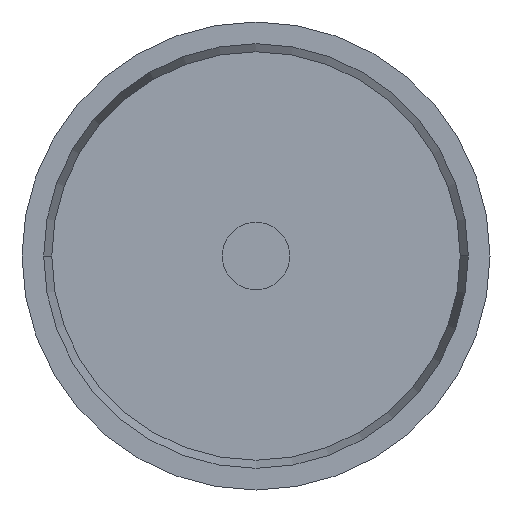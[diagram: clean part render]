
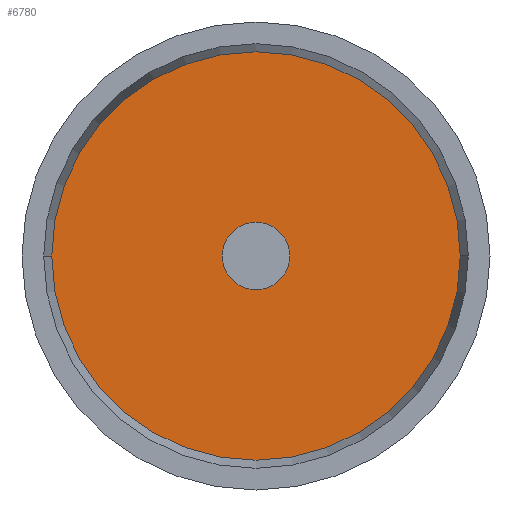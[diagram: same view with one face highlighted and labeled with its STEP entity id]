
A CAD part, left-side view. The second image highlights one B-rep face of the part: STEP entity #6780.
In plain terms, the highlighted planar face has unit normal (-1, 0, 0).
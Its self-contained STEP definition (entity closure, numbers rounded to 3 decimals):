
#5390=CARTESIAN_POINT('',(0.,-3.454,0.));
#5400=VERTEX_POINT('',#5390);
#5430=CARTESIAN_POINT('',(0.,0.,0.)
);
#5440=DIRECTION('',(1.,-0.,-0.));
#5450=DIRECTION('',(0.,1.,0.));
#5460=AXIS2_PLACEMENT_3D('',#5430,#5440,#5450);
#5470=CIRCLE('',#5460,3.454);
#5480=CARTESIAN_POINT('',(0.,0.,
3.454));
#5490=VERTEX_POINT('',#5480);
#5500=EDGE_CURVE('',#5490,#5400,#5470,.T.);
#5520=CARTESIAN_POINT('',(0.,3.454,0.));
#5530=VERTEX_POINT('',#5520);
#5540=EDGE_CURVE('',#5530,#5490,#5470,.T.);
#6480=CARTESIAN_POINT('',(0.,-3.496,3.496));
#6490=DIRECTION('',(1.,0.,0.));
#6500=DIRECTION('',(0.,-1.,0.));
#6510=AXIS2_PLACEMENT_3D('',#6480,#6490,#6500);
#6520=PLANE('',#6510);
#6530=ORIENTED_EDGE('',*,*,#5500,.F.);
#6540=EDGE_CURVE('',#5400,#5530,#5470,.T.);
#6550=ORIENTED_EDGE('',*,*,#6540,.F.);
#6560=ORIENTED_EDGE('',*,*,#5540,.F.);
#6570=EDGE_LOOP('',(#6560,#6550,#6530));
#6580=FACE_OUTER_BOUND('',#6570,.T.);
#6590=CARTESIAN_POINT('',(0.,0.,0.
));
#6600=DIRECTION('',(1.,-0.,-0.));
#6610=DIRECTION('',(0.,1.,0.));
#6620=AXIS2_PLACEMENT_3D('',#6590,#6600,#6610);
#6630=CIRCLE('',#6620,0.572);
#6640=CARTESIAN_POINT('',(0.,-0.572,0.));
#6650=VERTEX_POINT('',#6640);
#6660=CARTESIAN_POINT('',(0.,0.571,0.));
#6670=VERTEX_POINT('',#6660);
#6680=EDGE_CURVE('',#6650,#6670,#6630,.T.);
#6690=ORIENTED_EDGE('',*,*,#6680,.T.);
#6700=CARTESIAN_POINT('',(0.,0.,0.572));
#6710=VERTEX_POINT('',#6700);
#6720=EDGE_CURVE('',#6710,#6650,#6630,.T.);
#6730=ORIENTED_EDGE('',*,*,#6720,.T.);
#6740=EDGE_CURVE('',#6670,#6710,#6630,.T.);
#6750=ORIENTED_EDGE('',*,*,#6740,.T.);
#6760=EDGE_LOOP('',(#6750,#6730,#6690));
#6770=FACE_BOUND('',#6760,.T.);
#6780=ADVANCED_FACE('',(#6580,#6770),#6520,.F.);
